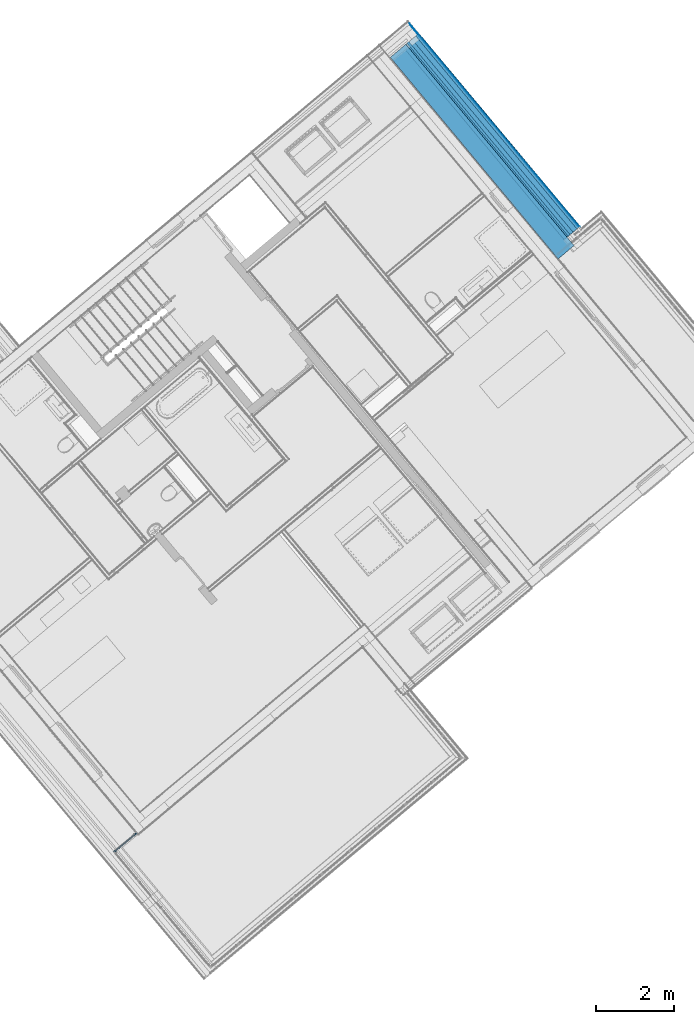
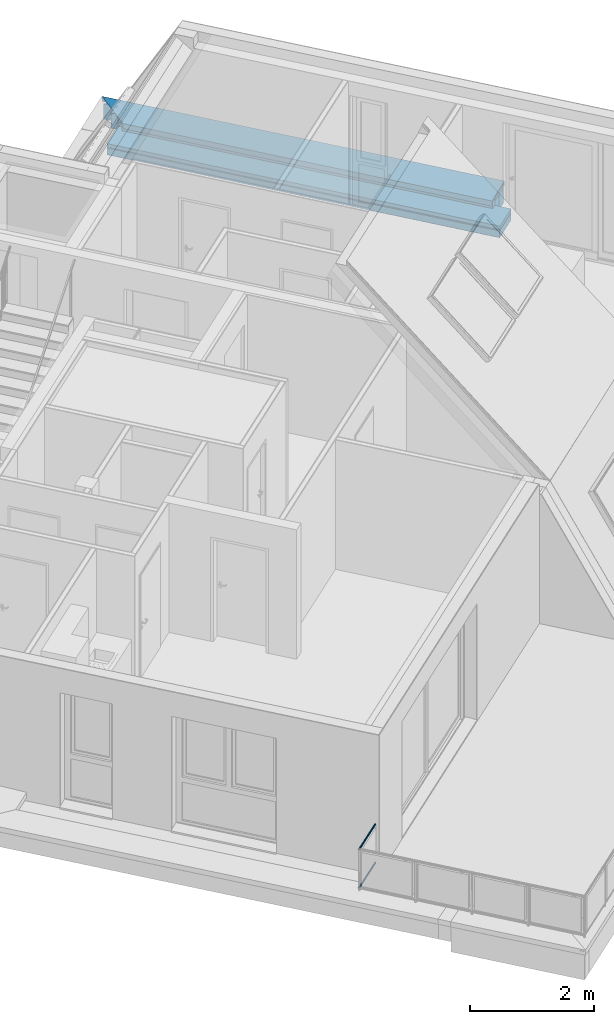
# One storey, part 43 of 61: 15 building element parts, 3 elements without a shape of their own.
"""IFC4 building model written with IfcOpenShell, lengths in metres."""

from ifc_helpers import new_model, entity, si_unit, converted_unit, derived_unit, direction, frame, origin_with_axes, place, context, subcontext, project, spatial, polygons, material, type_object, element, aggregate, save


model = new_model("IFC4")

# Units and contexts
model_context = context("Model", 3, precision=1e-05, world=origin_with_axes(), true_north=direction((0.0, 1.0)))
body_context = subcontext(model_context, "Body", "Model", "MODEL_VIEW")
ifc_project = project(units=[si_unit("LENGTHUNIT", "METRE"), si_unit("AREAUNIT", "SQUARE_METRE"), si_unit("VOLUMEUNIT", "CUBIC_METRE"), converted_unit("PLANEANGLEUNIT", "DEGREE", entity("IfcPlaneAngleMeasure", 0.0174532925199), si_unit("PLANEANGLEUNIT", "RADIAN"), dimensions=[0, 0, 0, 0, 0, 0, 0]), converted_unit("TIMEUNIT", "Year", entity("IfcTimeMeasure", 31556926.0), si_unit("TIMEUNIT", "SECOND"), dimensions=[0, 0, 1, 0, 0, 0, 0]), si_unit("MASSUNIT", "GRAM", prefix="KILO"), si_unit("THERMODYNAMICTEMPERATUREUNIT", "DEGREE_CELSIUS"), si_unit("LUMINOUSINTENSITYUNIT", "LUMEN"), si_unit("ENERGYUNIT", "JOULE", prefix="MEGA"), derived_unit("THERMALCONDUCTANCEUNIT", [(si_unit("POWERUNIT", "WATT"), 1), (si_unit("LENGTHUNIT", "METRE"), -1), (si_unit("THERMODYNAMICTEMPERATUREUNIT", "KELVIN"), -1)]), derived_unit("SPECIFICHEATCAPACITYUNIT", [(si_unit("ENERGYUNIT", "JOULE"), 1), (si_unit("MASSUNIT", "GRAM", prefix="KILO"), -1), (si_unit("THERMODYNAMICTEMPERATUREUNIT", "KELVIN"), -1)]), derived_unit("MASSDENSITYUNIT", [(si_unit("MASSUNIT", "GRAM", prefix="KILO"), 1), (si_unit("VOLUMEUNIT", "CUBIC_METRE"), -1)])], contexts=[model_context])

# Site, building, storey
site_placement = place(None, frame((-0.00153261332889, -0.00661245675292, 0.0), z_axis=(0.0, 0.0, 1.0), x_axis=(1.0, 0.0, 0.0)))
site = spatial("IfcSite", under=ifc_project, at=site_placement, Name="Gelände", CompositionType="ELEMENT")
building_placement = place(site_placement, origin_with_axes())
building = spatial("IfcBuilding", under=site, at=building_placement, Name="Gebäude", CompositionType="ELEMENT")
storey_placement = place(building_placement, frame((0.0, 0.0, 5.7), z_axis=(0.0, 0.0, 1.0), x_axis=(1.0, 0.0, 0.0)))
storey = spatial("IfcBuildingStorey", under=building, at=storey_placement, Name="DG1", CompositionType="ELEMENT", Elevation=5.7)

# Wall, building element parts
wall_type = type_object("IfcWallType", Name="Bauteil - Attika Terrasse 1.DG 574 x 410", PredefinedType="NOTDEFINED")
wall_placement = place(storey_placement, frame((5.63225201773, 30.7000107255, -0.2), z_axis=(0.0, 0.0, 1.0), x_axis=(0.641212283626, -0.767363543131, 0.0)))
wall = element("IfcWall", 1, at=wall_placement, inside=storey, type_object=wall_type, Name="Wand-003", PredefinedType="NOTDEFINED")
ifc_material_1 = material(Name="Zementputz")
building_element_part_1_placement = place(wall_placement, origin_with_axes())
building_element_part_1 = element("IfcBuildingElementPart", 2, at=building_element_part_1_placement, material=ifc_material_1, Name="Zementputz", PredefinedType="NOTDEFINED", context=body_context, shape_type="Tessellation", body=[
    polygons([(-0.199999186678, 0.214999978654, 0.498822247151), (-0.199999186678, 0.214999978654, 0.499999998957), (6.65166284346, 0.214999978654, 0.499999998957), (6.65166284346, 0.214999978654, 0.2), (-0.199999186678, 0.214999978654, 0.2), (-0.199999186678, 0.214999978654, 0.335), (-0.199999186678, 0.214999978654, 0.488695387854), (-0.199999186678, 0.214999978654, 0.49100648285), (-0.199999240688, 0.199999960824, 0.499999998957), (-0.199999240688, 0.199999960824, 0.498822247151), (6.65166284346, 0.199999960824, 0.499999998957), (6.65166284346, 0.199999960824, 0.2), (-0.199999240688, 0.199999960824, 0.2), (-0.199999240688, 0.199999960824, 0.335), (-0.199999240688, 0.199999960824, 0.488695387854), (-0.199999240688, 0.199999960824, 0.49100648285)], [[[1, 2, 3, 4, 5, 6, 7, 8]], [[9, 2, 1, 10]], [[2, 9, 11, 3]], [[4, 3, 11, 12]], [[13, 5, 4, 12]], [[14, 6, 5, 13]], [[15, 7, 6, 14]], [[16, 8, 7, 15]], [[10, 1, 8, 16]], [[9, 10, 16, 15, 14, 13, 12, 11]]], closed=True),
])
ifc_material_2 = material(Name="Vollholz")
building_element_part_2_placement = place(wall_placement, origin_with_axes())
building_element_part_2 = element("IfcBuildingElementPart", 3, at=building_element_part_2_placement, material=ifc_material_2, Name="Vollholz", PredefinedType="NOTDEFINED", context=body_context, shape_type="Tessellation", body=[
    polygons([(-0.130124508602, 0.130124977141, 0.584015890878), (-0.130124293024, 0.189996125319, 0.584015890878), (-0.130124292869, 0.190039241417, 0.575979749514), (-0.130124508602, 0.130124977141, 0.575979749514), (-0.189984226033, 0.189984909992, 0.586106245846), (6.65166284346, 0.189984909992, 0.586106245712), (6.65166284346, 0.190124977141, 0.560000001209), (-0.13012429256, 0.190124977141, 0.560000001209), (-0.130124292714, 0.190082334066, 0.567947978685), (-0.130124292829, 0.190050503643, 0.573880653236), (-0.130124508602, 0.130124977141, 0.573880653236), (-0.130124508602, 0.130124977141, 0.560000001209), (6.65166284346, 0.130124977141, 0.560000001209), (6.65166284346, 0.130124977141, 0.584015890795), (-0.130124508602, 0.130124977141, 0.567947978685)], [[[1, 2, 3, 4]], [[5, 2, 1]], [[2, 5, 6, 7, 8, 9, 10, 3]], [[3, 10, 11, 4]], [[12, 13, 14, 1, 4, 11, 15]], [[5, 1, 14, 6]], [[14, 13, 7, 6]], [[12, 8, 7, 13]], [[12, 15, 9, 8]], [[9, 15, 11, 10]]], closed=True),
])
ifc_material_3 = material(Name="EPS 1")
building_element_part_3_placement = place(wall_placement, origin_with_axes())
building_element_part_3 = element("IfcBuildingElementPart", 4, at=building_element_part_3_placement, material=ifc_material_3, Name="EPS 1", PredefinedType="NOTDEFINED", context=body_context, shape_type="Tessellation", body=[
    polygons([(7.19897897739e-07, 0.19999996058, 0.498822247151), (7.19897897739e-07, 0.19999996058, 0.499999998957), (6.65166284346, 0.19999996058, 0.499999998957), (6.65166284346, 0.19999996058, 0.2), (7.19897897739e-07, 0.19999996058, 0.2), (7.19897897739e-07, 0.19999996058, 0.335), (7.19897897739e-07, 0.19999996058, 0.488695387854), (7.19897897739e-07, 0.19999996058, 0.49100648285), (-2.39904096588e-10, 2.39904096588e-10, 0.499999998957), (-2.39904096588e-10, 2.39904096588e-10, 0.498822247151), (6.65166284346, 2.39907649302e-10, 0.499999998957), (6.65166284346, 2.39907649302e-10, 0.2), (-2.39904096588e-10, 2.39904096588e-10, 0.2), (-2.39904096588e-10, 2.39904096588e-10, 0.335), (-2.39904096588e-10, 2.39904096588e-10, 0.488695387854), (-2.39904096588e-10, 2.39904096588e-10, 0.49100648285)], [[[1, 2, 3, 4, 5, 6, 7, 8]], [[9, 2, 1, 10]], [[2, 9, 11, 3]], [[12, 4, 3, 11]], [[13, 5, 4, 12]], [[14, 6, 5, 13]], [[15, 7, 6, 14]], [[16, 8, 7, 15]], [[10, 1, 8, 16]], [[9, 10, 16, 15, 14, 13, 12, 11]]], closed=True),
])
ifc_material_4 = material(Name="Brettschichtholz")
building_element_part_4_placement = place(wall_placement, origin_with_axes())
building_element_part_4 = element("IfcBuildingElementPart", 5, at=building_element_part_4_placement, material=ifc_material_4, Name="Brettschichtholz", PredefinedType="NOTDEFINED", context=body_context, shape_type="Tessellation", body=[
    polygons([(0.200000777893, 0.214999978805, 0.519224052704), (0.200000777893, 0.214999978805, 0.559999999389), (6.65166284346, 0.214999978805, 0.559999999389), (6.65166284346, 0.214999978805, 0.499999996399), (0.200000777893, 0.214999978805, 0.500000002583), (0.200000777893, 0.214999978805, 0.50905023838), (0.200000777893, 0.214999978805, 0.511361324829), (0.200000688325, 0.190124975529, 0.559999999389), (0.199999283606, -0.200000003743, 0.519224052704), (0.199999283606, -0.200000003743, 0.559999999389), (0.199999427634, -0.159999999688, 0.559999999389), (0.199999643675, -0.100000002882, 0.559999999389), (0.200000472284, 0.130124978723, 0.559999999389), (6.65166284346, 0.190124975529, 0.559999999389), (6.65166284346, -0.200000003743, 0.500000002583), (6.65166284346, 0.130124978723, 0.559999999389), (6.65166284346, -0.100000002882, 0.559999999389), (6.65166284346, -0.159999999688, 0.559999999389), (6.65166284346, -0.200000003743, 0.559999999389), (0.199999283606, -0.200000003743, 0.500000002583), (0.199999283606, -0.200000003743, 0.50905023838), (0.199999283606, -0.200000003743, 0.511361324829)], [[[1, 2, 3, 4, 5, 6, 7]], [[8, 2, 1, 9, 10, 11, 12, 13]], [[2, 8, 14, 3]], [[15, 4, 3, 14, 16, 17, 18, 19]], [[20, 5, 4, 15]], [[21, 6, 5, 20]], [[22, 7, 6, 21]], [[9, 1, 7, 22]], [[10, 9, 22, 21, 20, 15, 19]], [[11, 10, 19, 18]], [[12, 11, 18, 17]], [[13, 12, 17, 16]], [[8, 13, 16, 14]]], closed=True),
])
ifc_material_5 = material(Name="Stahlbeton")
building_element_part_5_placement = place(wall_placement, origin_with_axes())
building_element_part_5 = element("IfcBuildingElementPart", 6, at=building_element_part_5_placement, material=ifc_material_5, Name="Stahlbeton", PredefinedType="NOTDEFINED", context=body_context, shape_type="Tessellation", body=[
    polygons([(0.199999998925, -1.82835790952e-09, 0.498822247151), (0.199999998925, -1.82835790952e-09, 0.500000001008), (6.65166284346, -1.82836146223e-09, 0.500000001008), (6.65166284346, -1.82836146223e-09, 0.2), (0.199999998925, -1.82835790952e-09, 0.2), (0.199999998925, -1.82835790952e-09, 0.335), (0.199999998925, -1.82835790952e-09, 0.488695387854), (0.199999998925, -1.82835790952e-09, 0.49100648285), (0.199999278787, -0.199999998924, 0.500000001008), (0.199999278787, -0.199999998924, 0.498822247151), (6.65166284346, -0.199999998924, 0.500000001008), (6.65166284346, -0.199999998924, 0.2), (6.65166284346, -0.199999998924, 0.335000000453), (0.199999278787, -0.199999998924, 0.2), (0.199999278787, -0.199999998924, 0.335), (0.199999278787, -0.199999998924, 0.488695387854), (0.199999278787, -0.199999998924, 0.49100648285)], [[[1, 2, 3, 4, 5, 6, 7, 8]], [[9, 2, 1, 10]], [[2, 9, 11, 3]], [[12, 4, 3, 11, 13]], [[14, 5, 4, 12]], [[15, 6, 5, 14]], [[16, 7, 6, 15]], [[17, 8, 7, 16]], [[10, 1, 8, 17]], [[9, 10, 17, 16, 15, 13, 11]], [[15, 14, 12, 13]]], closed=True),
])
building_element_part_6_placement = place(wall_placement, origin_with_axes())
building_element_part_6 = element("IfcBuildingElementPart", 7, at=building_element_part_6_placement, material=ifc_material_2, Name="Vollholz", PredefinedType="NOTDEFINED", context=body_context, shape_type="Tessellation", body=[
    polygons([(0.160109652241, -0.160110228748, 0.573880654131), (0.16010986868, -0.1, 0.573880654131), (0.160062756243, -0.1, 0.567947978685), (0.160062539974, -0.160063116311, 0.567947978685), (0.0999996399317, -0.1, 0.575979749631), (6.65166284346, -0.1, 0.575979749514), (6.65166284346, -0.1, 0.560000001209), (0.159999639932, -0.1, 0.560000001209), (0.159999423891, -0.16, 0.560000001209), (6.65166284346, -0.16, 0.560000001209), (6.65166284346, -0.160110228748, 0.573880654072)], [[[1, 2, 3, 4]], [[5, 2, 1]], [[2, 5, 6, 7, 8, 3]], [[4, 3, 8, 9]], [[1, 4, 9, 10, 11]], [[5, 1, 11, 6]], [[11, 10, 7, 6]], [[9, 8, 7, 10]]], closed=True),
])
building_element_part_7_placement = place(wall_placement, origin_with_axes())
building_element_part_7 = element("IfcBuildingElementPart", 8, at=building_element_part_7_placement, material=ifc_material_3, Name="EPS 1", PredefinedType="NOTDEFINED", context=body_context, shape_type="Tessellation", body=[
    polygons([(0.299999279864, -0.2, 0.519224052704), (0.299999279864, -0.2, 0.560000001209), (6.65166284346, -0.2, 0.560000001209), (6.65166284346, -0.2, 0.335), (0.299999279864, -0.2, 0.335), (0.299999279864, -0.2, 0.488695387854), (0.299999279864, -0.2, 0.49100648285), (0.299999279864, -0.2, 0.498822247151), (0.299999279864, -0.2, 0.499999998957), (0.299999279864, -0.2, 0.50905023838), (0.299999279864, -0.2, 0.511361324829), (0.299998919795, -0.3, 0.560000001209), (0.299998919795, -0.3, 0.519224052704), (6.65166284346, -0.3, 0.560000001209), (6.65166284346, -0.3, 0.335), (0.299998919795, -0.3, 0.335), (0.299998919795, -0.3, 0.488695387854), (0.299998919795, -0.3, 0.49100648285), (0.299998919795, -0.3, 0.498822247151), (0.299998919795, -0.3, 0.499999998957), (0.299998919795, -0.3, 0.50905023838), (0.299998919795, -0.3, 0.511361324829)], [[[1, 2, 3, 4, 5, 6, 7, 8, 9, 10, 11]], [[12, 2, 1, 13]], [[2, 12, 14, 3]], [[15, 4, 3, 14]], [[16, 5, 4, 15]], [[17, 6, 5, 16]], [[18, 7, 6, 17]], [[19, 8, 7, 18]], [[20, 9, 8, 19]], [[21, 10, 9, 20]], [[22, 11, 10, 21]], [[13, 1, 11, 22]], [[12, 13, 22, 21, 20, 19, 18, 17, 16, 15, 14]]], closed=True),
])
ifc_material_6 = material(Name="Holzwerkstoff")
building_element_part_8_placement = place(wall_placement, origin_with_axes())
building_element_part_8 = element("IfcBuildingElementPart", 9, at=building_element_part_8_placement, material=ifc_material_6, Name="Holzwerkstoff", PredefinedType="NOTDEFINED", context=body_context, shape_type="Tessellation", body=[
    polygons([(0.32999880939, -0.329999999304, 0.567947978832), (0.330205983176, -0.330207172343, 0.573880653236), (0.330206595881, -0.160110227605, 0.573880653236), (0.3305599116, -0.330561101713, 0.584015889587), (0.330279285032, -0.330280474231, 0.57597974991), (6.65166284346, -0.329999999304, 0.567947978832), (6.65166284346, -0.330698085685, 0.587938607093), (0.330696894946, -0.330698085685, 0.587938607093), (0.330632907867, -0.330634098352, 0.586106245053), (0.330280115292, -0.100000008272, 0.575979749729), (6.65166284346, -0.160110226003, 0.573880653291), (0.330561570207, 0.130125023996, 0.584015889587), (6.65166284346, -0.100000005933, 0.575979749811), (6.65166284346, 0.130124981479, 0.584015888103), (6.65166284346, 0.189984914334, 0.586106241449), (6.65166284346, 0.239999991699, 0.587852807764), (6.65166284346, 0.239276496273, 0.608570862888), (-0.239275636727, 0.239276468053, 0.608570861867), (0.330698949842, 0.2399969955, 0.587938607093), (0.330695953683, 0.239999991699, 0.587852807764), (0.330634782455, 0.189985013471, 0.586106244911)], [[[1, 2, 3]], [[4, 5, 2, 1, 6, 7, 8, 9]], [[2, 5, 10, 3]], [[1, 3, 11, 6]], [[5, 4, 12, 10]], [[7, 6, 11, 13, 14, 15, 16, 17]], [[18, 8, 7, 17]], [[9, 8, 19, 20, 21]], [[4, 9, 21, 12]], [[3, 10, 13, 11]], [[10, 12, 14, 13]], [[12, 21, 15, 14]], [[21, 20, 16, 15]], [[19, 18, 17, 16, 20]], [[8, 18, 19]]], closed=True),
])
ifc_material_7 = material(Name="Stahl")
building_element_part_9_placement = place(wall_placement, origin_with_axes())
building_element_part_9 = element("IfcBuildingElementPart", 10, at=building_element_part_9_placement, material=ifc_material_7, Name="Stahl", PredefinedType="NOTDEFINED", context=body_context, shape_type="Tessellation", body=[
    polygons([(0.332050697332, -0.332051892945, 0.49100648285), (0.332050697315, -0.332051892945, 0.489652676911), (6.65166284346, -0.332051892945, 0.489652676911), (6.65166284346, -0.332051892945, 0.589243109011), (0.332050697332, -0.332051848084, 0.589243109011), (0.332050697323, -0.332051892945, 0.587937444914), (0.332050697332, -0.332051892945, 0.586106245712), (0.332050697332, -0.332051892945, 0.584015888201), (0.332050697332, -0.332051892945, 0.575979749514), (0.332050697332, -0.332051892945, 0.573880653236), (0.332050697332, -0.332051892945, 0.567947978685), (0.332050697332, -0.332051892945, 0.559999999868), (0.332050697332, -0.332051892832, 0.519224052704), (0.332050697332, -0.332051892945, 0.511361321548), (0.332050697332, -0.332051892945, 0.50905024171), (0.332050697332, -0.332051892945, 0.499999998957), (0.332050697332, -0.332051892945, 0.498822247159), (0.332050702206, -0.330698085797, 0.49100648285), (0.3320507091, -0.328783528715, 0.491006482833), (0.332050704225, -0.330137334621, 0.489652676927), (0.331093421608, -0.331094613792, 0.488695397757), (6.65166284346, -0.331094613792, 0.488695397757), (6.65166284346, -0.321878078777, 0.497911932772), (6.65166284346, -0.32288233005, 0.498822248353), (6.65166284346, -0.330698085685, 0.491006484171), (6.65166284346, -0.330698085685, 0.587937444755), (6.65166284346, 0.239276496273, 0.608570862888), (6.65166284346, 0.240152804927, 0.608602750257), (6.65166284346, 0.240146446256, 0.51136132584), (6.65166284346, 0.232283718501, 0.519224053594), (6.65166284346, 0.231373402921, 0.518219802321), (6.65166284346, 0.240542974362, 0.509050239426), (6.65166284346, 0.241500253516, 0.510007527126), (6.65166284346, 0.241500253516, 0.610006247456), (-0.241499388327, 0.241500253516, 0.610006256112), (-0.202729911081, 0.202730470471, 0.608602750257), (-0.201849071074, 0.201849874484, 0.608570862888), (0.332050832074, -0.294630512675, 0.589243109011), (0.332050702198, -0.330698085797, 0.587937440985), (0.332050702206, -0.330698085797, 0.586106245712), (0.332050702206, -0.330698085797, 0.584015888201), (0.332050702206, -0.330698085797, 0.575979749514), (0.332050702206, -0.330698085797, 0.573880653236), (0.332050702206, -0.330698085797, 0.567947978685), (0.332050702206, -0.330698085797, 0.559999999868), (0.332050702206, -0.330698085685, 0.519224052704), (0.332050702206, -0.330698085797, 0.511361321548), (0.332050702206, -0.330698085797, 0.50905024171), (0.332050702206, -0.330698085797, 0.499999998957), (0.332050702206, -0.330698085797, 0.498822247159), (0.330696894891, -0.330698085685, 0.491006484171), (0.330696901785, -0.328783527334, 0.491006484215), (0.323791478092, -0.321878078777, 0.497911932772), (0.322881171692, -0.32288233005, 0.498822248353), (-0.201848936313, 0.239276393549, 0.608570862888), (-0.202729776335, 0.240152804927, 0.608602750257), (-0.240145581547, 0.240146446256, 0.51136132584), (-0.238231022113, 0.240146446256, 0.511361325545), (-0.240151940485, 0.240152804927, 0.608602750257), (-0.240151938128, 0.240152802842, 0.608570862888), (-0.240150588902, 0.240151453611, 0.587937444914), (-0.240150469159, 0.240151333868, 0.586106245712), (-0.24015033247, 0.240151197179, 0.584015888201), (-0.240149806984, 0.240150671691, 0.575979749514), (-0.240149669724, 0.24015053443, 0.573880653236), (-0.240149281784, 0.240150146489, 0.567947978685), (-0.240148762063, 0.240149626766, 0.559999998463), (-0.240146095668, 0.240146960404, 0.519224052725), (-0.231372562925, 0.233287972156, 0.518219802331), (-0.232282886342, 0.232283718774, 0.519224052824), (-0.231372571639, 0.231373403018, 0.518219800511), (-0.238231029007, 0.238231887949, 0.51136132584), (-0.240542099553, 0.240542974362, 0.50905023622), (-0.239584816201, 0.241500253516, 0.510007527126), (-0.238231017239, 0.241500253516, 0.511361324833), (-0.240145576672, 0.241500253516, 0.511361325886), (-0.240146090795, 0.241500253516, 0.519224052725), (-0.2401487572, 0.241500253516, 0.559999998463), (-0.240149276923, 0.241500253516, 0.567947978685), (-0.240149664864, 0.241500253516, 0.573880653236), (-0.240149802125, 0.241500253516, 0.575979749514), (-0.240150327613, 0.241500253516, 0.584015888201), (-0.240150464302, 0.241500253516, 0.586106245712), (-0.240150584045, 0.241500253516, 0.587937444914), (-0.240151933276, 0.241500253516, 0.608570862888), (-0.240151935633, 0.241500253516, 0.608602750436), (-0.202729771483, 0.241500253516, 0.608602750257)], [[[1, 2, 3, 4, 5, 6, 7, 8, 9, 10, 11, 12, 13, 14, 15, 16, 17]], [[2, 1, 18, 19, 20]], [[2, 21, 22, 3]], [[3, 22, 23, 24, 25, 26, 27, 28, 29, 30, 31, 32, 33, 34, 4]], [[5, 4, 34, 35, 36, 37]], [[6, 5, 38, 39]], [[7, 6, 39, 40]], [[8, 7, 40, 41]], [[9, 8, 41, 42]], [[10, 9, 42, 43]], [[11, 10, 43, 44]], [[12, 11, 44, 45]], [[13, 12, 45, 46]], [[14, 13, 46, 47]], [[15, 14, 47, 48]], [[16, 15, 48, 49]], [[17, 16, 49, 50]], [[1, 17, 50, 18]], [[18, 51, 52, 19]], [[21, 20, 19, 52, 53, 23, 22]], [[21, 2, 20]], [[23, 53, 54, 24]], [[51, 18, 25, 24, 54]], [[18, 50, 49, 48, 47, 46, 45, 44, 43, 42, 41, 40, 39, 26, 25]], [[26, 39, 38, 55, 27]], [[55, 56, 28, 27]], [[57, 58, 29, 28, 56, 59, 60, 61, 62, 63, 64, 65, 66, 67, 68]], [[58, 69, 70, 30, 29]], [[70, 71, 31, 30]], [[71, 72, 73, 32, 31]], [[73, 74, 33, 32]], [[74, 75, 76, 77, 78, 79, 80, 81, 82, 83, 84, 85, 86, 87, 35, 34, 33]], [[56, 36, 35, 87]], [[37, 36, 56, 55]], [[38, 5, 37, 55]], [[52, 51, 54, 53]], [[58, 57, 76, 75]], [[59, 56, 87, 86]], [[60, 59, 86, 85]], [[61, 60, 85, 84]], [[62, 61, 84, 83]], [[63, 62, 83, 82]], [[64, 63, 82, 81]], [[65, 64, 81, 80]], [[79, 66, 65, 80]], [[67, 66, 79, 78]], [[68, 67, 78, 77]], [[57, 68, 77, 76]], [[71, 69, 58, 72]], [[69, 71, 70]], [[72, 58, 75, 74, 73]]], closed=True),
])
aggregate(wall, [building_element_part_1, building_element_part_2, building_element_part_3, building_element_part_4, building_element_part_5, building_element_part_6, building_element_part_7, building_element_part_8, building_element_part_9])

# Covering, building element parts
covering_type = type_object("IfcCoveringType", Name="Balkon vor Terrasse Kies 220", PredefinedType="NOTDEFINED")
covering_placement = place(storey_placement, frame((9.51043860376, 24.9075540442, 0.0), z_axis=(0.0, 0.0, 1.0), x_axis=(1.0, 0.0, 0.0)))
covering = element("IfcCovering", 11, at=covering_placement, inside=storey, type_object=covering_type, Name="Decke-005", PredefinedType="NOTDEFINED")
ifc_material_8 = material(Name="Kies")
building_element_part_10_placement = place(covering_placement, origin_with_axes())
building_element_part_10 = element("IfcBuildingElementPart", 12, at=building_element_part_10_placement, material=ifc_material_8, Name="Kies", PredefinedType="NOTDEFINED", context=body_context, shape_type="Tessellation", body=[
    polygons([(-4.3048963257, 5.17526691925, 0.22), (0.0115104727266, 0.00961813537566, 0.22), (0.413007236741, 0.345108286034, 0.22), (-3.90341732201, 5.51074204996, 0.22), (0.0115104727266, 0.00961813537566, 0.15), (-4.3048963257, 5.17526691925, 0.15), (0.413007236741, 0.345108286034, 0.15), (-3.90341732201, 5.51074204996, 0.15)], [[[1, 2, 3, 4]], [[5, 2, 1, 6]], [[2, 5, 7, 3]], [[7, 8, 4, 3]], [[6, 1, 4, 8]], [[5, 6, 8, 7]]], closed=True),
])
ifc_material_9 = material(Name="Sperrschicht")
building_element_part_11_placement = place(covering_placement, origin_with_axes())
building_element_part_11 = element("IfcBuildingElementPart", 13, at=building_element_part_11_placement, material=ifc_material_9, Name="Sperrschicht", PredefinedType="NOTDEFINED", context=body_context, shape_type="Tessellation", body=[
    polygons([(0.413007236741, 0.345108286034, 0.135), (0.413007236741, 0.345108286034, 0.15), (0.0, 0.0, 0.15), (0.0, 0.0, 0.135), (-3.90341732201, 5.51074204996, 0.135), (-3.90341732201, 5.51074204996, 0.15), (-4.30522843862, 5.17498940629, 0.15), (-4.30522843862, 5.17498940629, 0.135)], [[[1, 2, 3, 4]], [[5, 6, 2, 1]], [[3, 2, 6, 7]], [[4, 3, 7, 8]], [[4, 8, 5, 1]], [[8, 7, 6, 5]]], closed=True),
])
ifc_material_10 = material(Name="XPS")
building_element_part_12_placement = place(covering_placement, origin_with_axes())
building_element_part_12 = element("IfcBuildingElementPart", 14, at=building_element_part_12_placement, material=ifc_material_10, Name="XPS", PredefinedType="NOTDEFINED", context=body_context, shape_type="Tessellation", body=[
    polygons([(0.413007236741, 0.345108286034, 0.005), (0.413007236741, 0.345108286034, 0.135), (0.0, 0.0, 0.135), (0.0, 0.0, 0.005), (-3.90341732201, 5.51074204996, 0.005), (-3.90341732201, 5.51074204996, 0.135), (-4.30522843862, 5.17498940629, 0.135), (-4.30522843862, 5.17498940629, 0.005)], [[[1, 2, 3, 4]], [[5, 6, 2, 1]], [[3, 2, 6, 7]], [[4, 3, 7, 8]], [[4, 8, 5, 1]], [[8, 7, 6, 5]]], closed=True),
])
building_element_part_13_placement = place(covering_placement, origin_with_axes())
building_element_part_13 = element("IfcBuildingElementPart", 15, at=building_element_part_13_placement, material=ifc_material_9, Name="Sperrschicht", PredefinedType="NOTDEFINED", context=body_context, shape_type="Tessellation", body=[
    polygons([(0.0, 0.0, 0.0), (0.413007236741, 0.345108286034, 0.0), (0.413007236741, 0.345108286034, 0.005), (0.0, 0.0, 0.005), (-4.30522843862, 5.17498940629, 0.0), (-3.90341732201, 5.51074204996, 0.0), (-3.90341732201, 5.51074204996, 0.005), (-4.30522843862, 5.17498940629, 0.005)], [[[1, 2, 3, 4]], [[1, 5, 6, 2]], [[2, 6, 7, 3]], [[4, 3, 7, 8]], [[5, 1, 4, 8]], [[6, 5, 8, 7]]], closed=True),
])
aggregate(covering, [building_element_part_10, building_element_part_11, building_element_part_12, building_element_part_13])

# Space
space_placement = place(storey_placement, frame((-1.65459986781, 9.80045444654, 0.22), z_axis=(0.0, 0.0, 1.0), x_axis=(0.640908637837, -0.767617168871, 0.0)))
space = spatial("IfcSpace", under=storey, at=space_placement, CompositionType="ELEMENT", PredefinedType="NOTDEFINED")

# Railing, building element parts
railing_type = type_object("IfcRailingType", Name="Geländerart", PredefinedType="NOTDEFINED")
railing_placement = place(space_placement, frame((-0.0155551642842, 0.517171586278, 0.16), z_axis=(0.0, 0.0, 1.0), x_axis=(0.640908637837, 0.767617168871, 0.0)))
railing = element("IfcRailing", 16, at=railing_placement, inside=space, type_object=railing_type, Name="Geländer - 001", PredefinedType="NOTDEFINED")
ifc_material_11 = material(Name="Aluminium")
building_element_part_14_placement = place(railing_placement, origin_with_axes())
building_element_part_14 = element("IfcBuildingElementPart", 17, at=building_element_part_14_placement, material=ifc_material_11, Name="Aluminium", PredefinedType="NOTDEFINED", context=body_context, shape_type="Tessellation", body=[
    polygons([(-0.0224318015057, 0.026866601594, 0.825), (-0.0225778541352, 0.0270415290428, 0.827604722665), (-0.586355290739, -0.443674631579, 0.827604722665), (-0.586034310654, -0.443703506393, 0.825), (-0.0225778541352, 0.0270415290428, 0.822395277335), (-0.0230115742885, 0.0275609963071, 0.81986969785), (-0.0237197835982, 0.0284092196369, 0.8175), (-0.0246809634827, 0.0295604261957, 0.815358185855), (-0.0258659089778, 0.0309796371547, 0.813509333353), (-0.027238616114, 0.032623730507, 0.812009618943), (-0.0287573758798, 0.034442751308, 0.810904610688), (-0.0303760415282, 0.0363814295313, 0.810227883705), (-0.0320454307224, 0.03838085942, 0.81), (-0.0337148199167, 0.0403802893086, 0.810227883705), (-0.035333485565, 0.0423189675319, 0.810904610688), (-0.0368522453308, 0.044137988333, 0.812009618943), (-0.038224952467, 0.0457820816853, 0.813509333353), (-0.0394098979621, 0.0472012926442, 0.815358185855), (-0.0403710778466, 0.048352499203, 0.8175), (-0.0410792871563, 0.0492007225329, 0.81986969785), (-0.0415130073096, 0.0497201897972, 0.822395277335), (-0.0416590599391, 0.049895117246, 0.825), (-0.0415130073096, 0.0497201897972, 0.827604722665), (-0.0410792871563, 0.0492007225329, 0.83013030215), (-0.0403710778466, 0.048352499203, 0.8325), (-0.0394098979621, 0.0472012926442, 0.834641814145), (-0.038224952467, 0.0457820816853, 0.836490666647), (-0.0368522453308, 0.044137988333, 0.837990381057), (-0.035333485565, 0.0423189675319, 0.839095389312), (-0.0337148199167, 0.0403802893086, 0.839772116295), (-0.0320454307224, 0.03838085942, 0.84), (-0.0303760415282, 0.0363814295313, 0.839772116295), (-0.0287573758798, 0.034442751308, 0.839095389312), (-0.027238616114, 0.032623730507, 0.837990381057), (-0.0258659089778, 0.0309796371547, 0.836490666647), (-0.0246809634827, 0.0295604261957, 0.834641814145), (-0.0237197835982, 0.0284092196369, 0.8325), (-0.0230115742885, 0.0275609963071, 0.83013030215), (-0.587308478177, -0.443588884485, 0.83013030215), (-0.588864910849, -0.443448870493, 0.8325), (-0.590977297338, -0.443258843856, 0.834641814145), (-0.593581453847, -0.443024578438, 0.836490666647), (-0.5965982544, -0.442753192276, 0.837990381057), (-0.599936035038, -0.4424529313, 0.839095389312), (-0.603493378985, -0.442132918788, 0.839772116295), (-0.607162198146, -0.441802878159, 0.84), (-0.610831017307, -0.441472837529, 0.839772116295), (-0.614388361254, -0.441152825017, 0.839095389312), (-0.617726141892, -0.440852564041, 0.837990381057), (-0.620742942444, -0.440581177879, 0.836490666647), (-0.623347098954, -0.440346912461, 0.834641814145), (-0.625459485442, -0.440156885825, 0.8325), (-0.627015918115, -0.440016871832, 0.83013030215), (-0.627969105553, -0.439931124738, 0.827604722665), (-0.628290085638, -0.439902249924, 0.825), (-0.627969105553, -0.439931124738, 0.822395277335), (-0.627015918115, -0.440016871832, 0.81986969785), (-0.625459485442, -0.440156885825, 0.8175), (-0.623347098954, -0.440346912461, 0.815358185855), (-0.620742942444, -0.440581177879, 0.813509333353), (-0.617726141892, -0.440852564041, 0.812009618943), (-0.614388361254, -0.441152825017, 0.810904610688), (-0.610831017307, -0.441472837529, 0.810227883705), (-0.607162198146, -0.441802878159, 0.81), (-0.603493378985, -0.442132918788, 0.810227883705), (-0.599936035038, -0.4424529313, 0.810904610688), (-0.5965982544, -0.442753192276, 0.812009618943), (-0.593581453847, -0.443024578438, 0.813509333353), (-0.590977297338, -0.443258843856, 0.815358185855), (-0.588864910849, -0.443448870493, 0.8175), (-0.587308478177, -0.443588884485, 0.81986969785), (-0.586355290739, -0.443674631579, 0.822395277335)], [[[1, 2, 3, 4]], [[1, 5, 6, 7, 8, 9, 10, 11, 12, 13, 14, 15, 16, 17, 18, 19, 20, 21, 22, 23, 24, 25, 26, 27, 28, 29, 30, 31, 32, 33, 34, 35, 36, 37, 38, 2]], [[2, 38, 39, 3]], [[4, 3, 39, 40, 41, 42, 43, 44, 45, 46, 47, 48, 49, 50, 51, 52, 53, 54, 55, 56, 57, 58, 59, 60, 61, 62, 63, 64, 65, 66, 67, 68, 69, 70, 71, 72]], [[5, 1, 4, 72]], [[6, 5, 72, 71]], [[7, 6, 71, 70]], [[8, 7, 70, 69]], [[9, 8, 69, 68]], [[10, 9, 68, 67]], [[11, 10, 67, 66]], [[12, 11, 66, 65]], [[13, 12, 65, 64]], [[14, 13, 64, 63]], [[15, 14, 63, 62]], [[16, 15, 62, 61]], [[17, 16, 61, 60]], [[18, 17, 60, 59]], [[19, 18, 59, 58]], [[20, 19, 58, 57]], [[21, 20, 57, 56]], [[22, 21, 56, 55]], [[23, 22, 55, 54]], [[24, 23, 54, 53]], [[25, 24, 53, 52]], [[26, 25, 52, 51]], [[27, 26, 51, 50]], [[28, 27, 50, 49]], [[29, 28, 49, 48]], [[30, 29, 48, 47]], [[31, 30, 47, 46]], [[32, 31, 46, 45]], [[33, 32, 45, 44]], [[34, 33, 44, 43]], [[35, 34, 43, 42]], [[36, 35, 42, 41]], [[37, 36, 41, 40]], [[38, 37, 40, 39]]], closed=True),
])
building_element_part_15_placement = place(railing_placement, origin_with_axes())
building_element_part_15 = element("IfcBuildingElementPart", 18, at=building_element_part_15_placement, material=ifc_material_11, Name="Aluminium", PredefinedType="NOTDEFINED", context=body_context, shape_type="Tessellation", body=[
    polygons([(-0.0224318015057, 0.026866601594, 0.07), (-0.0225778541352, 0.0270415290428, 0.072604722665), (-0.586355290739, -0.443674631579, 0.072604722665), (-0.586034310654, -0.443703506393, 0.07), (-0.0225778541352, 0.0270415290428, 0.067395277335), (-0.0230115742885, 0.0275609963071, 0.0648696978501), (-0.0237197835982, 0.0284092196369, 0.0625), (-0.0246809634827, 0.0295604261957, 0.0603581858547), (-0.0258659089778, 0.0309796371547, 0.0585093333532), (-0.027238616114, 0.032623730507, 0.0570096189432), (-0.0287573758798, 0.034442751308, 0.0559046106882), (-0.0303760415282, 0.0363814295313, 0.0552278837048), (-0.0320454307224, 0.03838085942, 0.055), (-0.0337148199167, 0.0403802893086, 0.0552278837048), (-0.035333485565, 0.0423189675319, 0.0559046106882), (-0.0368522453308, 0.044137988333, 0.0570096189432), (-0.038224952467, 0.0457820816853, 0.0585093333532), (-0.0394098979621, 0.0472012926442, 0.0603581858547), (-0.0403710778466, 0.048352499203, 0.0625), (-0.0410792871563, 0.0492007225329, 0.0648696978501), (-0.0415130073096, 0.0497201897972, 0.067395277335), (-0.0416590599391, 0.049895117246, 0.07), (-0.0415130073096, 0.0497201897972, 0.072604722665), (-0.0410792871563, 0.0492007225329, 0.0751303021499), (-0.0403710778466, 0.048352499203, 0.0775), (-0.0394098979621, 0.0472012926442, 0.0796418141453), (-0.038224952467, 0.0457820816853, 0.0814906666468), (-0.0368522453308, 0.044137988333, 0.0829903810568), (-0.035333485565, 0.0423189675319, 0.0840953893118), (-0.0337148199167, 0.0403802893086, 0.0847721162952), (-0.0320454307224, 0.03838085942, 0.085), (-0.0303760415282, 0.0363814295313, 0.0847721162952), (-0.0287573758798, 0.034442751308, 0.0840953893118), (-0.027238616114, 0.032623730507, 0.0829903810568), (-0.0258659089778, 0.0309796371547, 0.0814906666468), (-0.0246809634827, 0.0295604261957, 0.0796418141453), (-0.0237197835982, 0.0284092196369, 0.0775), (-0.0230115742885, 0.0275609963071, 0.0751303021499), (-0.587308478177, -0.443588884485, 0.0751303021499), (-0.588864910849, -0.443448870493, 0.0775), (-0.590977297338, -0.443258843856, 0.0796418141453), (-0.593581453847, -0.443024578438, 0.0814906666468), (-0.5965982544, -0.442753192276, 0.0829903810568), (-0.599936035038, -0.4424529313, 0.0840953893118), (-0.603493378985, -0.442132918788, 0.0847721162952), (-0.607162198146, -0.441802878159, 0.085), (-0.610831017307, -0.441472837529, 0.0847721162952), (-0.614388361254, -0.441152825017, 0.0840953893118), (-0.617726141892, -0.440852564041, 0.0829903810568), (-0.620742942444, -0.440581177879, 0.0814906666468), (-0.623347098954, -0.440346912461, 0.0796418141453), (-0.625459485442, -0.440156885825, 0.0775), (-0.627015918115, -0.440016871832, 0.0751303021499), (-0.627969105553, -0.439931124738, 0.072604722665), (-0.628290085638, -0.439902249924, 0.07), (-0.627969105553, -0.439931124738, 0.067395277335), (-0.627015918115, -0.440016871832, 0.0648696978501), (-0.625459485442, -0.440156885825, 0.0625), (-0.623347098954, -0.440346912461, 0.0603581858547), (-0.620742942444, -0.440581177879, 0.0585093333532), (-0.617726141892, -0.440852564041, 0.0570096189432), (-0.614388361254, -0.441152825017, 0.0559046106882), (-0.610831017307, -0.441472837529, 0.0552278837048), (-0.607162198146, -0.441802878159, 0.055), (-0.603493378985, -0.442132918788, 0.0552278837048), (-0.599936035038, -0.4424529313, 0.0559046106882), (-0.5965982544, -0.442753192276, 0.0570096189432), (-0.593581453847, -0.443024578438, 0.0585093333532), (-0.590977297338, -0.443258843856, 0.0603581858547), (-0.588864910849, -0.443448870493, 0.0625), (-0.587308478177, -0.443588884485, 0.0648696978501), (-0.586355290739, -0.443674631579, 0.067395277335)], [[[1, 2, 3, 4]], [[1, 5, 6, 7, 8, 9, 10, 11, 12, 13, 14, 15, 16, 17, 18, 19, 20, 21, 22, 23, 24, 25, 26, 27, 28, 29, 30, 31, 32, 33, 34, 35, 36, 37, 38, 2]], [[2, 38, 39, 3]], [[4, 3, 39, 40, 41, 42, 43, 44, 45, 46, 47, 48, 49, 50, 51, 52, 53, 54, 55, 56, 57, 58, 59, 60, 61, 62, 63, 64, 65, 66, 67, 68, 69, 70, 71, 72]], [[5, 1, 4, 72]], [[6, 5, 72, 71]], [[7, 6, 71, 70]], [[8, 7, 70, 69]], [[9, 8, 69, 68]], [[10, 9, 68, 67]], [[11, 10, 67, 66]], [[12, 11, 66, 65]], [[13, 12, 65, 64]], [[14, 13, 64, 63]], [[15, 14, 63, 62]], [[16, 15, 62, 61]], [[17, 16, 61, 60]], [[18, 17, 60, 59]], [[19, 18, 59, 58]], [[20, 19, 58, 57]], [[21, 20, 57, 56]], [[22, 21, 56, 55]], [[23, 22, 55, 54]], [[24, 23, 54, 53]], [[25, 24, 53, 52]], [[26, 25, 52, 51]], [[27, 26, 51, 50]], [[28, 27, 50, 49]], [[29, 28, 49, 48]], [[30, 29, 48, 47]], [[31, 30, 47, 46]], [[32, 31, 46, 45]], [[33, 32, 45, 44]], [[34, 33, 44, 43]], [[35, 34, 43, 42]], [[36, 35, 42, 41]], [[37, 36, 41, 40]], [[38, 37, 40, 39]]], closed=True),
])
aggregate(railing, [building_element_part_14, building_element_part_15])

save(model, "model.ifc")
